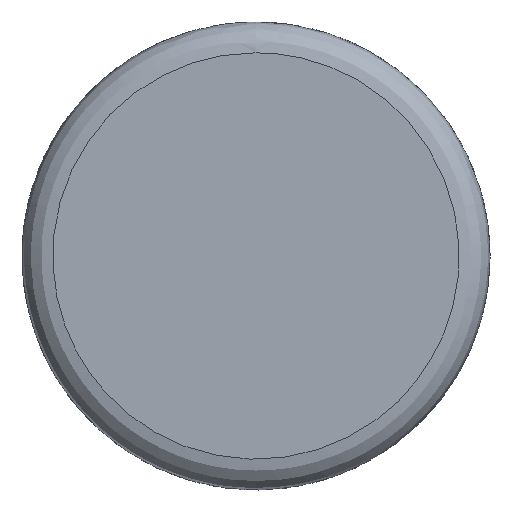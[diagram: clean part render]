
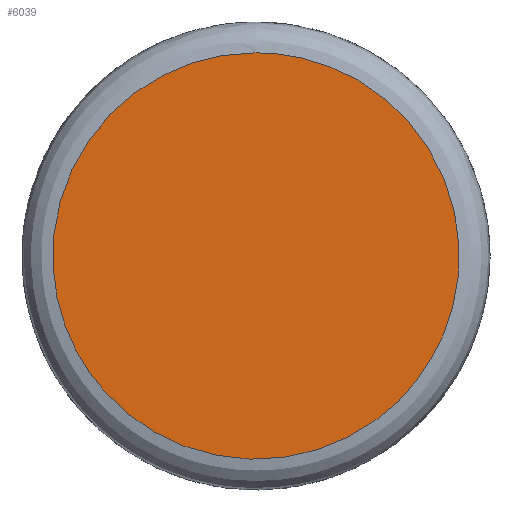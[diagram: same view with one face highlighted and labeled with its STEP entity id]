
A CAD part, front view. The second image highlights one B-rep face of the part: STEP entity #6039.
In plain terms, the highlighted free-form (B-spline) face has degree [1, 1] with [2, 2] control points.
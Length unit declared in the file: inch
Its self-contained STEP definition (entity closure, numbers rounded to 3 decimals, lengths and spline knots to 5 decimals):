
#6013=CARTESIAN_POINT('F9',(-1.24114,0.0,
   -1.254));
#6014=CARTESIAN_POINT('F9',(1.24114,0.0,-1.254)
   );
#6015=CARTESIAN_POINT('F9',(-1.24114,0.0,1.254)
   );
#6016=CARTESIAN_POINT('F9',(1.24114,0.0,1.254)
   );
#6017=QUASI_UNIFORM_SURFACE('F9',1,1,((#6013,#6015),(#6014,#6016)),
   .PLANE_SURF.,.F.,.F.,.U.);
#6018=CARTESIAN_POINT('V2',(0.0,0.0,0.99));
#6019=VERTEX_POINT('V2',#6018);
#6020=CARTESIAN_POINT('E2',(0.,0.,
   0.99));
#6021=CARTESIAN_POINT('E2',(-1.71473,0.,
   0.99));
#6022=CARTESIAN_POINT('E2',(-0.85737,0.,
   -0.495));
#6023=CARTESIAN_POINT('E2',(0.,0.,
   -1.98));
#6024=CARTESIAN_POINT('E2',(0.85737,0.,
   -0.495));
#6025=CARTESIAN_POINT('E2',(1.71473,0.,
   0.99));
#6026=CARTESIAN_POINT('E2',(0.,0.,
   0.99));
#6034=(BOUNDED_CURVE()B_SPLINE_CURVE(2,(#6020,#6021,#6022,#6023,
   #6024,#6025,#6026),.CIRCULAR_ARC.,.T.,.U.)
   B_SPLINE_CURVE_WITH_KNOTS((3,2,2,3),(2.0,10.8,
   19.6,28.4),.UNSPECIFIED.)CURVE()
   GEOMETRIC_REPRESENTATION_ITEM()RATIONAL_B_SPLINE_CURVE((1.0,
   0.5,1.0,0.5,1.0,0.5,1.0)
   )REPRESENTATION_ITEM('E2'));
#6035=EDGE_CURVE('E2',#6019,#6019,#6034,.T.);
#6036=ORIENTED_EDGE('E2',*,*,#6035,.F.);
#6037=EDGE_LOOP('F9',(#6036));
#6038=FACE_OUTER_BOUND('F9',#6037,.F.);
#6039=ADVANCED_FACE('F9',(#6038),#6017,.T.);
